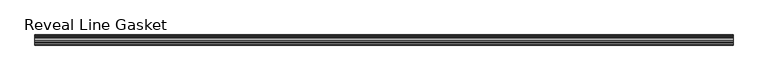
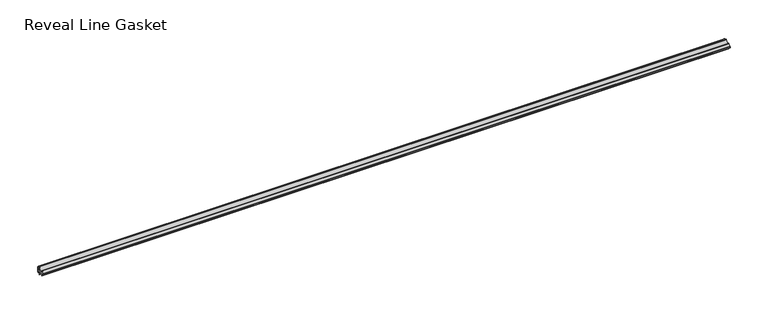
"""IFC4 building model written with IfcOpenShell, lengths in millimetres: proxy geometry, Accessories-Teknion-FHGR-AI_Healthcare-Reveal_Line_Gasket(Horizontal)-R2022 : Reveal Line Gasket."""

import ifcopenshell
import ifcopenshell.guid

model = None  # the IFC model being written
_history = None  # IfcOwnerHistory: only IFC2X3 demands one
_inside = {}  # id of a spatial element -> (the spatial element, [elements in it])
_under = {}  # id of a project, library or spatial element -> (it, [spatial elements below it])
_declared = {}  # id of a project -> (the project, [libraries it declares])
_typed = {}  # id of a type object -> (the type object, [elements of that type])
_made_of = {}  # id of a material, layer set ... -> (it, [elements and type objects made of it])


def new_model(schema):
    """Start an empty IFC model of exactly this schema.

    Asked for "IFC4X3", IfcOpenShell would pick the latest addendum, in which some entities
    have other attributes; the version numbers below select the first issue.
    IFC2X3 requires an IfcOwnerHistory on every rooted entity: one is made here for all.
    """
    global model, _history
    if schema == "IFC4X3":
        model = ifcopenshell.file(schema_version=(4, 3, 0, 0))
    else:
        model = ifcopenshell.file(schema=schema)
    _inside.clear()
    _under.clear()
    _declared.clear()
    _typed.clear()
    _made_of.clear()
    _history = None
    if model.schema == "IFC2X3":
        org = make("IfcOrganization", Name="unknown")
        user = make(
            "IfcPersonAndOrganization",
            ThePerson=make("IfcPerson", FamilyName="unknown"),
            TheOrganization=org,
        )
        app = make(
            "IfcApplication",
            ApplicationDeveloper=org,
            Version="unknown",
            ApplicationFullName="unknown",
            ApplicationIdentifier="unknown",
        )
        _history = make(
            "IfcOwnerHistory",
            OwningUser=user,
            OwningApplication=app,
            ChangeAction="ADDED",
            CreationDate=0,
        )
    return model


def make(cls, **values):
    """One entity of the class cls with the attributes given. An attribute that is None is left unset."""
    return model.create_entity(
        cls, **{name: value for name, value in values.items() if value is not None}
    )


def rooted(cls, **values):
    """An entity with a GlobalId (a new one), such as an element, a storey or a relation."""
    return make(cls, GlobalId=ifcopenshell.guid.new(), OwnerHistory=_history, **values)


def si_unit(unit_type, name, prefix=None):
    """IfcSIUnit, for example si_unit("LENGTHUNIT", "METRE", prefix="MILLI")."""
    return make("IfcSIUnit", UnitType=unit_type, Prefix=prefix, Name=name)


def assignment(units):
    """IfcUnitAssignment: the units of a project."""
    return None if units is None else make("IfcUnitAssignment", Units=units)


def point(xyz):
    """IfcCartesianPoint."""
    return None if xyz is None else make("IfcCartesianPoint", Coordinates=xyz)


def direction(xyz):
    """IfcDirection."""
    return None if xyz is None else make("IfcDirection", DirectionRatios=xyz)


def frame(location, z_axis=None, x_axis=None):
    """IfcAxis2Placement3D, a coordinate frame: its origin and axes. An axis left out is left unset."""
    return make(
        "IfcAxis2Placement3D",
        Location=point(location),
        Axis=direction(z_axis),
        RefDirection=direction(x_axis),
    )


def frame_2d(location, x_axis=None):
    """IfcAxis2Placement2D, a coordinate frame in the plane: its origin and x axis."""
    return make(
        "IfcAxis2Placement2D", Location=point(location), RefDirection=direction(x_axis)
    )


def origin():
    """The frame at (0, 0, 0) with its axes left unset."""
    return frame((0.0, 0.0, 0.0))


def place(relative_to, where):
    """IfcLocalPlacement: puts the frame where relative to a parent placement (None: the world)."""
    return make(
        "IfcLocalPlacement", PlacementRelTo=relative_to, RelativePlacement=where
    )


def context(
    kind, dimensions, precision=None, world=None, true_north=None, identifier=None
):
    """IfcGeometricRepresentationContext, for example the 3D "Model" context."""
    return make(
        "IfcGeometricRepresentationContext",
        ContextIdentifier=identifier,
        ContextType=kind,
        CoordinateSpaceDimension=dimensions,
        Precision=precision,
        WorldCoordinateSystem=world,
        TrueNorth=true_north,
    )


def project(units=None, contexts=None):
    """IfcProject with its units and contexts."""
    return rooted(
        "IfcProject",
        Name="project",
        RepresentationContexts=contexts,
        UnitsInContext=assignment(units),
    )


def spatial(cls, under=None, at=None, **own):
    """A site, building, storey or space (cls), placed at a placement, below another one or the project."""
    s = rooted(cls, ObjectPlacement=at, **own)
    if under is not None:
        _under.setdefault(under.id(), (under, []))[1].append(s)
    return s


def polyline(points):
    """IfcPolyline through the points."""
    return make("IfcPolyline", Points=[point(p) for p in points])


def circle_curve(where, radius):
    """IfcCircle in the frame where."""
    return make("IfcCircle", Position=where, Radius=radius)


def trimmed(basis, trim1, trim2, sense, master):
    """IfcTrimmedCurve: the piece of a basis curve between two trims."""
    return make(
        "IfcTrimmedCurve",
        BasisCurve=basis,
        Trim1=trim1,
        Trim2=trim2,
        SenseAgreement=sense,
        MasterRepresentation=master,
    )


def segment(curve, same_sense, transition):
    """IfcCompositeCurveSegment."""
    return make(
        "IfcCompositeCurveSegment",
        Transition=transition,
        SameSense=same_sense,
        ParentCurve=curve,
    )


def composite_curve(segments, self_intersect=None):
    """IfcCompositeCurve: segments joined end to end."""
    return make("IfcCompositeCurve", Segments=segments, SelfIntersect=self_intersect)


def outline(outer, holes=None, kind="AREA"):
    """IfcArbitraryClosedProfileDef: a profile drawn as a closed curve; with holes, ...WithVoids."""
    if holes is None:
        return make("IfcArbitraryClosedProfileDef", ProfileType=kind, OuterCurve=outer)
    return make(
        "IfcArbitraryProfileDefWithVoids",
        ProfileType=kind,
        OuterCurve=outer,
        InnerCurves=holes,
    )


def extrude(swept, where, along, depth):
    """IfcExtrudedAreaSolid: the profile swept, set in the frame where, extruded along a direction by depth."""
    return make(
        "IfcExtrudedAreaSolid",
        SweptArea=swept,
        Position=where,
        ExtrudedDirection=direction(along),
        Depth=depth,
    )


def shape(context_of_items, identifier, shape_type, items):
    """IfcShapeRepresentation: the items that make up one representation, for example the "Body"."""
    return make(
        "IfcShapeRepresentation",
        ContextOfItems=context_of_items,
        RepresentationIdentifier=identifier,
        RepresentationType=shape_type,
        Items=items,
    )


def source(mapping_origin, context_of_items, identifier, shape_type, items):
    """IfcRepresentationMap: a shape defined once, which mapped items show again and again."""
    return make(
        "IfcRepresentationMap",
        MappingOrigin=mapping_origin,
        MappedRepresentation=shape(context_of_items, identifier, shape_type, items),
    )


def transform(
    local_origin,
    x_axis=None,
    y_axis=None,
    z_axis=None,
    scale=None,
    scale2=None,
    scale3=None,
    uniform=True,
):
    """IfcCartesianTransformationOperator3D, or its non-uniform kind. x_axis, y_axis, z_axis: its Axis1, 2, 3."""
    if uniform:
        return make(
            "IfcCartesianTransformationOperator3D",
            Axis1=direction(x_axis),
            Axis2=direction(y_axis),
            LocalOrigin=point(local_origin),
            Scale=scale,
            Axis3=direction(z_axis),
        )
    return make(
        "IfcCartesianTransformationOperator3DnonUniform",
        Axis1=direction(x_axis),
        Axis2=direction(y_axis),
        LocalOrigin=point(local_origin),
        Scale=scale,
        Axis3=direction(z_axis),
        Scale2=scale2,
        Scale3=scale3,
    )


def mapped(mapping_source, mapping_target):
    """IfcMappedItem: shows the shape of a source again, moved by a transform."""
    return make(
        "IfcMappedItem", MappingSource=mapping_source, MappingTarget=mapping_target
    )


def made_of(thing, what):
    """Note that an element or type object is made of a material, layer set ...; save() writes the relation."""
    if what is not None:
        _made_of.setdefault(what.id(), (what, []))[1].append(thing)
    return thing


def element(
    cls,
    number,
    at=None,
    inside=None,
    cuts=None,
    type_object=None,
    material=None,
    context=None,
    identifier="Body",
    shape_type=None,
    held_by="IfcProductDefinitionShape",
    body=None,
    shapes=None,
    **own,
):
    """One element of the class cls, such as IfcWall. Its Tag is "e" and its number.

    at: its placement. inside: the storey or other place that contains it. cuts: it is an
    opening in that element (IfcRelVoidsElement). A single representation is given by context,
    identifier, shape_type and body (its items); several are given by shapes. held_by: the class
    of the entity that holds the representations. save() writes the other relations.
    """
    e = rooted(cls, Tag="e%d" % number, ObjectPlacement=at, **own)
    if body is not None:
        shapes = [shape(context, identifier, shape_type, body)]
    if shapes is not None:
        e.Representation = make(held_by, Representations=shapes)
    if inside is not None:
        _inside.setdefault(inside.id(), (inside, []))[1].append(e)
    if cuts is not None:
        rooted(
            "IfcRelVoidsElement", RelatingBuildingElement=cuts, RelatedOpeningElement=e
        )
    if type_object is not None:
        _typed.setdefault(type_object.id(), (type_object, []))[1].append(e)
    return made_of(e, material)


def aggregate(whole, parts):
    """IfcRelAggregates: a whole, such as a stair, and the parts it consists of."""
    return rooted("IfcRelAggregates", RelatingObject=whole, RelatedObjects=parts)


def save(model, path):
    """Write the relations noted so far, then the file.

    IfcRelAggregates (storeys below a building ...), IfcRelContainedInSpatialStructure (elements
    in a storey), IfcRelDefinesByType, IfcRelAssociatesMaterial and IfcRelDeclares: one each for
    every whole, place, type object, material and project.
    """
    for whole, parts in _under.values():
        aggregate(whole, parts)
    for where, things in _inside.values():
        rooted(
            "IfcRelContainedInSpatialStructure",
            RelatedElements=things,
            RelatingStructure=where,
        )
    for kind, things in _typed.values():
        rooted("IfcRelDefinesByType", RelatedObjects=things, RelatingType=kind)
    for what, things in _made_of.values():
        rooted("IfcRelAssociatesMaterial", RelatedObjects=things, RelatingMaterial=what)
    for by, libraries in _declared.values():
        rooted("IfcRelDeclares", RelatingContext=by, RelatedDefinitions=libraries)
    model.write(path)


def reveal_line_gasket_fc032984(model_context):
    return source(origin(), model_context, "Body", "SweptSolid", [
        extrude(outline(composite_curve([segment(polyline([(7.6326998, 1603.2), (7.6326998, 1597.2), (7.4091917, 1596.2445073), (6.8813059, 1595.3115316)]), True, "CONTINUOUS"), segment(trimmed(circle_curve(frame_2d((6.5243141, 1595.5135207)), 0.4101739), [point((6.8813059, 1595.3115316))], [point((6.1246704, 1595.6058653))], False, "CARTESIAN"), True, "CONTINUOUS"), segment(polyline([(6.1246704, 1595.6058653), (6.3626997, 1597.3020914), (6.3626997, 1599.3345473)]), True, "CONTINUOUS"), segment(trimmed(circle_curve(frame_2d((5.6959605, 1598.9180742)), 0.786124), [point((6.3626997, 1599.3345473))], [point((5.0926996, 1599.422125))], True, "CARTESIAN"), True, "CONTINUOUS"), segment(polyline([(5.0926996, 1599.422125), (0.7492996, 1599.422125), (3.7293824, 1594.2604705)]), True, "CONTINUOUS"), segment(trimmed(circle_curve(frame_2d((3.3132479, 1594.1950239)), 0.4212495), [point((3.7293824, 1594.2604705))], [point((3.0485022, 1593.8673642))], False, "CARTESIAN"), True, "CONTINUOUS"), segment(polyline([(3.0485022, 1593.8673642), (-0.5742594, 1599.422125), (-4.8262978, 1599.422125), (-3.1660374, 1596.5464703)]), True, "CONTINUOUS"), segment(trimmed(circle_curve(frame_2d((-3.5978728, 1596.4881145)), 0.4357605), [point((-3.1660374, 1596.5464703))], [point((-3.864328, 1596.1433119))], False, "CARTESIAN"), True, "CONTINUOUS"), segment(polyline([(-3.864328, 1596.1433119), (-6.1944059, 1599.422125), (-7.6326998, 1599.422125), (-7.6326998, 1600.977875), (-6.1944059, 1600.977875), (-3.864328, 1604.2566881)]), True, "CONTINUOUS"), segment(trimmed(circle_curve(frame_2d((-3.5978728, 1603.9118855)), 0.4357605), [point((-3.864328, 1604.2566881))], [point((-3.1660374, 1603.8535297))], False, "CARTESIAN"), True, "CONTINUOUS"), segment(polyline([(-3.1660374, 1603.8535297), (-4.8262978, 1600.977875), (-0.5742594, 1600.977875), (3.0485022, 1606.5326358)]), True, "CONTINUOUS"), segment(trimmed(circle_curve(frame_2d((3.3132479, 1606.2049761)), 0.4212495), [point((3.0485022, 1606.5326358))], [point((3.7293824, 1606.1395295))], False, "CARTESIAN"), True, "CONTINUOUS"), segment(polyline([(3.7293824, 1606.1395295), (0.7492996, 1600.977875), (5.0926996, 1600.977875)]), True, "CONTINUOUS"), segment(trimmed(circle_curve(frame_2d((5.6959605, 1601.4819258)), 0.786124), [point((5.0926996, 1600.977875))], [point((6.3626997, 1601.0654527))], True, "CARTESIAN"), True, "CONTINUOUS"), segment(polyline([(6.3626997, 1601.0654527), (6.3626997, 1603.0979086), (6.1246704, 1604.7941347)]), True, "CONTINUOUS"), segment(trimmed(circle_curve(frame_2d((6.5243141, 1604.8864793)), 0.4101739), [point((6.1246704, 1604.7941347))], [point((6.8813059, 1605.0884684))], False, "CARTESIAN"), True, "CONTINUOUS"), segment(polyline([(6.8813059, 1605.0884684), (7.4091917, 1604.1554927), (7.6326998, 1603.2)]), True, "CONTINUOUS")], self_intersect=False)), frame((-525.1749999, 0.0, 0.0), z_axis=(1.0, 0.0, 0.0), x_axis=(0.0, 1.0, 0.0)), (0.0, 0.0, 1.0), 1050.3499999),
    ])


if __name__ == "__main__":
    model = new_model("IFC4")
    model_context = context("Model", 3, world=origin())
    ifc_project = project(units=[si_unit("LENGTHUNIT", "METRE", prefix="MILLI")], contexts=[model_context])
    site = spatial("IfcSite", under=ifc_project)
    building = spatial("IfcBuilding", under=site)
    placement = place(None, origin())
    reveal_line_gasket_shape = reveal_line_gasket_fc032984(model_context)
    element("IfcBuildingElementProxy", 1, Name="Accessories-Teknion-FHGR-AI_Healthcare-Reveal_Line_Gasket(Horizontal)-R2022 : Reveal Line Gasket", ObjectType="Accessories-Teknion-FHGR-AI_Healthcare-Reveal_Line_Gasket(Horizontal)-R2022 : Reveal Line Gasket", at=placement, inside=building, context=model_context, shape_type="MappedRepresentation", body=[
        mapped(reveal_line_gasket_shape, transform((0.0, 0.0, 0.0), x_axis=(1.0, 0.0, 0.0), y_axis=(0.0, 1.0, 0.0), z_axis=(0.0, 0.0, 1.0))),
    ])
    save(model, "model.ifc")
